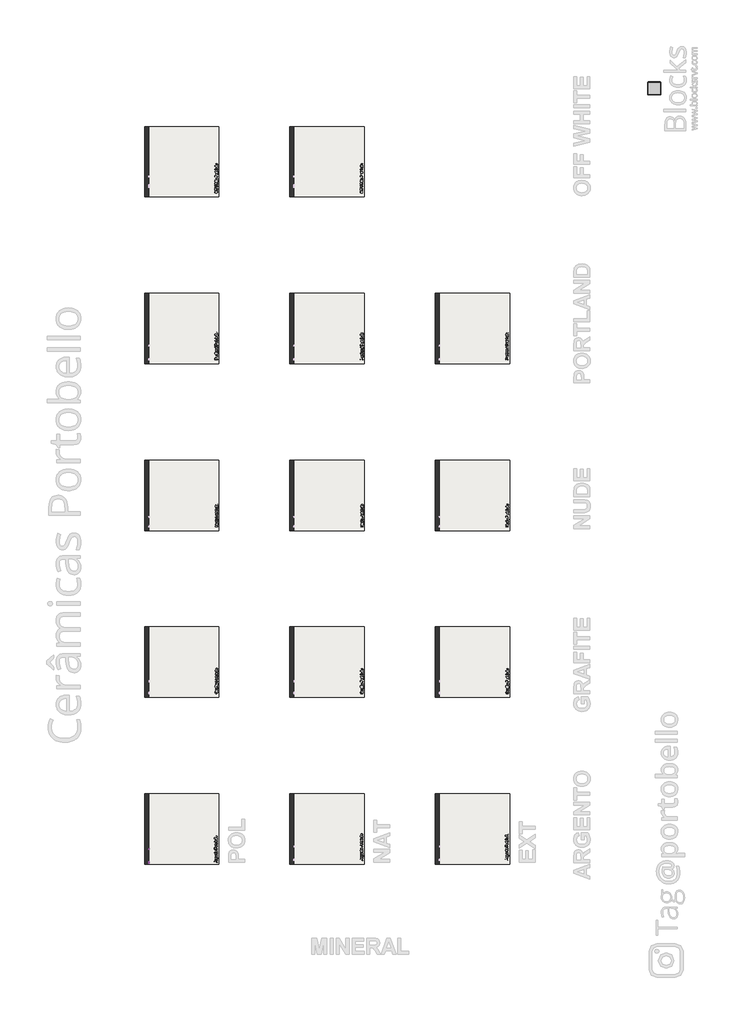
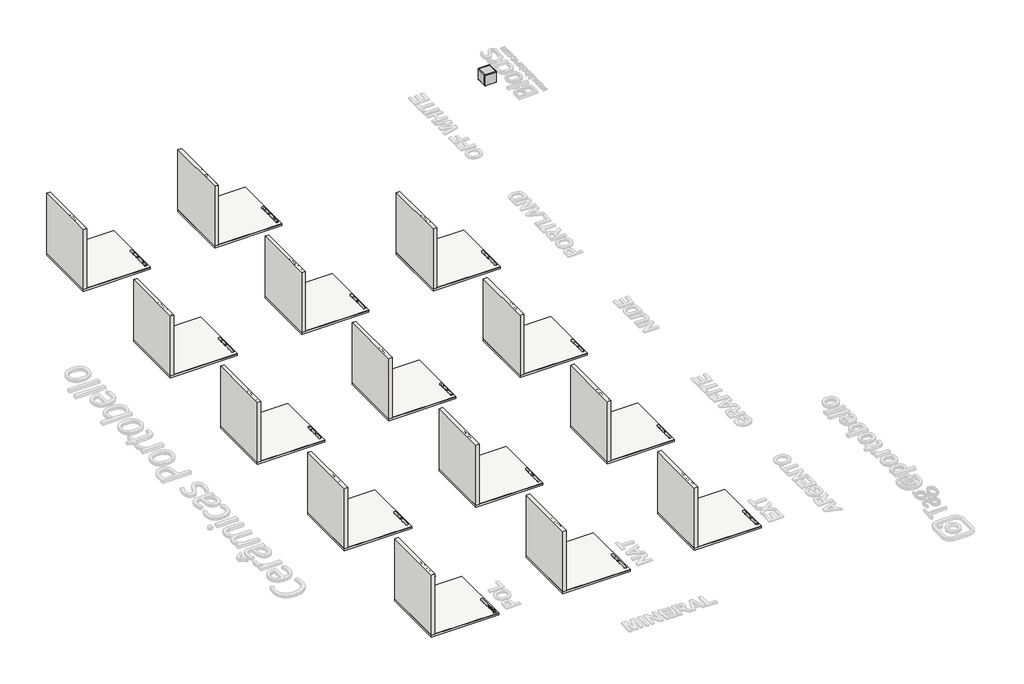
# One storey, part 1 of 14: 28 slabs, 14 walls, 3 proxies, 1 furniture element.
"""IFC4 building model written with IfcOpenShell, lengths in millimetres."""

from ifc_helpers import new_model, si_unit, frame, origin, origin_with_axes, place, context, project, spatial, polyline, outline, extrude, transform, mapped, element, save
from components import branco_22256ad2

model = new_model("IFC4")

# Units and contexts
model_context = context("Model", 3, world=origin())
ifc_project = project(units=[si_unit("LENGTHUNIT", "METRE", prefix="MILLI")], contexts=[model_context])

# Site, building, storey
site = spatial("IfcSite", under=ifc_project)
building = spatial("IfcBuilding", under=site)
storey = spatial("IfcBuildingStorey", under=building, Name="PORTOBELLO - SHOWROOM", Elevation=0.0)

# Proxies
placement = place(None, origin())
element("IfcBuildingElementProxy", 1, Name="10mm Arial", ObjectType="10mm Arial", at=placement, inside=storey, context=model_context, shape_type="SweptSolid", body=[
    extrude(outline(polyline([(186744.2516342, -9179.6965096), (186643.795324, -9139.5973722), (186643.795324, -9128.9042688), (186744.2516342, -9088.8051314), (186744.2516342, -9102.0734086), (186712.8590373, -9113.5758524), (186712.8590373, -9154.9503141), (186744.2516342, -9166.4282323), (186744.2516342, -9179.6965096)]), holes=[polyline([(186700.3019985, -9150.3395264), (186700.3019985, -9118.1621146), (186675.6048539, -9127.2120116), (186656.3523628, -9134.2508205), (186673.4466129, -9140.5048144), (186700.3019985, -9150.3395264)])]), frame((0.0, 0.0, 17.0), z_axis=(0.0, 0.0, 1.0), x_axis=(1.0, 0.0, 0.0)), (0.0, 0.0, 1.0), 20.0),
    extrude(outline(polyline([(186744.2516342, -9076.9593311), (186670.4790314, -9076.9593311), (186670.4790314, -9065.9719222), (186681.392864, -9065.9719222), (186671.3374228, -9058.1728239), (186668.9094016, -9050.3246747), (186672.7844253, -9037.718585), (186684.0416143, -9041.9124397), (186681.4664404, -9050.7416076), (186683.9435125, -9057.8417301), (186690.810643, -9062.3666786), (186705.4768719, -9064.4022923), (186744.2516342, -9064.4022923), (186744.2516342, -9076.9593311)])), frame((0.0, 0.0, 17.0), z_axis=(0.0, 0.0, 1.0), x_axis=(1.0, 0.0, 0.0)), (0.0, 0.0, 1.0), 20.0),
    extrude(outline(polyline([(186750.5301536, -9033.0096954), (186752.0997834, -9020.4526566), (186758.7216593, -9016.3814292), (186761.5175625, -9004.1922725), (186758.3537773, -8991.3409281), (186749.4755585, -8985.2095615), (186734.8338551, -8984.3511702), (186741.8971894, -8993.1926008), (186744.2516342, -9003.9715433), (186741.5109133, -9016.9179238), (186733.2887507, -9026.5717605), (186721.234484, -9032.5774341), (186706.9974508, -9034.5793253), (186687.5364933, -9030.9863444), (186673.7654439, -9020.5875467), (186668.9094016, -9004.5846799), (186671.6562538, -8993.3826732), (186679.8968105, -8984.3511702), (186670.4790314, -8984.3511702), (186670.4790314, -8971.7941314), (186734.1716675, -8971.7941314), (186758.5622438, -8975.2276967), (186769.905272, -8986.104741), (186774.0746013, -9004.4375271), (186772.606139, -9016.1208462), (186768.2007521, -9025.3209617), (186760.8461779, -9031.2224021), (186750.5301536, -9033.0096954)]), holes=[polyline([(186706.1390595, -9022.0222865), (186717.6568316, -9020.6825829), (186725.5754916, -9016.6634721), (186730.1648195, -9010.6210103), (186731.6945954, -9003.2112538), (186730.1740165, -8995.8566796), (186725.6122798, -8989.783561), (186717.7947874, -8985.7092679), (186706.5069415, -8984.3511702), (186695.6207001, -8985.7491218), (186687.7817479, -8989.9429765), (186683.0452673, -8996.1049999), (186681.4664404, -9003.4074575), (186683.0207418, -9010.5780908), (186687.6836461, -9016.5898957), (186695.4061023, -9020.6641888), (186706.1390595, -9022.0222865)])]), frame((0.0, 0.0, 17.0), z_axis=(0.0, 0.0, 1.0), x_axis=(1.0, 0.0, 0.0)), (0.0, 0.0, 1.0), 20.0),
    extrude(outline(polyline([(186722.2768164, -8901.3079411), (186723.8464462, -8888.996157), (186733.1232038, -8893.4322008), (186740.0577795, -8900.5108635), (186744.3803929, -8910.0727297), (186745.821264, -8921.9583838), (186743.3349949, -8936.6920577), (186735.8761874, -8948.0289545), (186723.9292196, -8955.2578357), (186707.9784695, -8957.6674628), (186691.4912247, -8955.2333103), (186679.1610465, -8947.9308527), (186671.4723128, -8936.74724), (186668.9094016, -8922.6696223), (186671.4661815, -8909.0303974), (186679.1365211, -8898.1318933), (186691.4421738, -8890.9857855), (186707.9048931, -8888.6037496), (186711.2894074, -8888.677326), (186711.2894074, -8945.110424), (186720.6887924, -8942.9368546), (186727.5988426, -8937.8876742), (186731.8478796, -8930.600545), (186733.2642253, -8921.7131291), (186730.6400004, -8909.401345), (186722.2768164, -8901.3079411)]), holes=[polyline([(186698.7323687, -8945.110424), (186698.7323687, -8901.1607883), (186687.3525523, -8906.1885089), (186682.9379683, -8913.5093606), (186681.4664404, -8922.7186733), (186686.1630672, -8938.1819798), (186691.6537059, -8943.0472192), (186698.7323687, -8945.110424)])]), frame((0.0, 0.0, 17.0), z_axis=(0.0, 0.0, 1.0), x_axis=(1.0, 0.0, 0.0)), (0.0, 0.0, 1.0), 20.0),
    extrude(outline(polyline([(186744.2516342, -8876.0467108), (186670.4790314, -8876.0467108), (186670.4790314, -8863.489672), (186680.7797273, -8863.489672), (186671.876983, -8853.887952), (186668.9094016, -8840.7790902), (186671.3006346, -8828.9210272), (186677.5791539, -8820.8276233), (186686.812992, -8817.0629642), (186698.9530979, -8816.4007767), (186744.2516342, -8816.4007767), (186744.2516342, -8828.9578154), (186700.645355, -8828.9578154), (186689.5353188, -8830.4048179), (186683.6614696, -8835.5183777), (186681.4664404, -8844.1390791), (186686.3960591, -8857.7629756), (186693.5391012, -8862.0579979), (186705.1089899, -8863.489672), (186744.2516342, -8863.489672), (186744.2516342, -8876.0467108)])), frame((0.0, 0.0, 17.0), z_axis=(0.0, 0.0, 1.0), x_axis=(1.0, 0.0, 0.0)), (0.0, 0.0, 1.0), 20.0),
    extrude(outline(polyline([(186733.7792601, -8772.451141), (186744.6195162, -8770.8815111), (186745.821264, -8780.2747647), (186743.7365994, -8790.7961898), (186738.2674204, -8796.0446396), (186724.0181245, -8797.5652185), (186683.0360702, -8797.5652185), (186683.0360702, -8806.9829976), (186670.4790314, -8806.9829976), (186670.4790314, -8797.5652185), (186652.5509155, -8797.5652185), (186645.1687502, -8785.0081797), (186670.4790314, -8785.0081797), (186670.4790314, -8772.451141), (186683.0360702, -8772.451141), (186683.0360702, -8785.0081797), (186723.6502425, -8785.0081797), (186730.1249656, -8784.3459921), (186732.4180967, -8782.2000138), (186733.2642253, -8777.92032), (186733.7792601, -8772.451141)])), frame((0.0, 0.0, 17.0), z_axis=(0.0, 0.0, 1.0), x_axis=(1.0, 0.0, 0.0)), (0.0, 0.0, 1.0), 20.0),
    extrude(outline(polyline([(186707.3653328, -8763.0333619), (186689.5782383, -8760.3171665), (186677.0763819, -8752.1685803), (186670.9511467, -8742.1008764), (186668.9094016, -8730.0466097), (186671.3956707, -8716.8549744), (186678.8544782, -8706.318221), (186690.6972128, -8699.4112365), (186706.3352632, -8697.1089084), (186728.6779631, -8701.1801358), (186741.320841, -8713.0381987), (186745.821264, -8730.0466097), (186743.3441919, -8743.3976604), (186735.9129756, -8753.9221511), (186723.8219207, -8760.7555592), (186707.3653328, -8763.0333619)]), holes=[polyline([(186707.3408073, -8750.4763231), (186718.7052953, -8749.0231892), (186726.8017649, -8744.6637876), (186731.6486102, -8738.1032253), (186733.2642253, -8730.0466097), (186731.6394131, -8722.0267822), (186726.7649767, -8715.4784826), (186718.5612082, -8711.119081), (186706.9483999, -8709.6659471), (186695.9150057, -8711.1282781), (186687.9289007, -8715.5152708), (186683.0820555, -8722.0727674), (186681.4664404, -8730.0466097), (186683.0759241, -8738.1032253), (186687.9043753, -8744.6637876), (186695.9824507, -8749.0231892), (186707.3408073, -8750.4763231)])]), frame((0.0, 0.0, 17.0), z_axis=(0.0, 0.0, 1.0), x_axis=(1.0, 0.0, 0.0)), (0.0, 0.0, 1.0), 20.0),
])
element("IfcBuildingElementProxy", 2, Name="10mm Arial", ObjectType="10mm Arial", at=placement, inside=storey, context=model_context, shape_type="SweptSolid", body=[
    extrude(outline(polyline([(-9209.6433663, 2558.2261649), (-9169.5442288, 2658.6824751), (-9158.8511255, 2658.6824751), (-9118.751988, 2558.2261649), (-9132.0202653, 2558.2261649), (-9143.522709, 2589.6187619), (-9184.8971708, 2589.6187619), (-9196.375089, 2558.2261649), (-9209.6433663, 2558.2261649)]), holes=[polyline([(-9180.2863831, 2602.1758006), (-9148.1089712, 2602.1758006), (-9157.1588683, 2626.8729452), (-9164.1976772, 2646.1254363), (-9170.4516711, 2629.0311863), (-9180.2863831, 2602.1758006)])]), frame((184113.9473279, 0.0, 0.0), z_axis=(1.0, 0.0, 0.0), x_axis=(0.0, 1.0, 0.0)), (0.0, 0.0, 1.0), 20.0),
    extrude(outline(polyline([(-9106.9061878, 2558.2261649), (-9106.9061878, 2631.9987677), (-9095.9187789, 2631.9987677), (-9095.9187789, 2621.0849352), (-9088.1196806, 2631.1403764), (-9080.2715313, 2633.5683975), (-9067.6654416, 2629.6933739), (-9071.8592964, 2618.4361848), (-9080.6884643, 2621.0113588), (-9087.7885868, 2618.5342867), (-9092.3135353, 2611.6671561), (-9094.349149, 2597.0009272), (-9094.349149, 2558.2261649), (-9106.9061878, 2558.2261649)])), frame((184113.9473279, 0.0, 0.0), z_axis=(1.0, 0.0, 0.0), x_axis=(0.0, 1.0, 0.0)), (0.0, 0.0, 1.0), 20.0),
    extrude(outline(polyline([(-9062.9565521, 2551.9476456), (-9050.3995133, 2550.3780157), (-9046.3282859, 2543.7561398), (-9034.1391291, 2540.9602366), (-9021.2877848, 2544.1240218), (-9015.1564182, 2553.0022406), (-9014.2980269, 2567.643944), (-9023.1394575, 2560.5806097), (-9033.9183999, 2558.2261649), (-9046.8647805, 2560.9668858), (-9056.5186172, 2569.1890484), (-9062.5242908, 2581.2433151), (-9064.5261819, 2595.4803483), (-9060.9332011, 2614.9413059), (-9050.5344034, 2628.7123552), (-9034.5315366, 2633.5683975), (-9023.3295298, 2630.8215453), (-9014.2980269, 2622.5809886), (-9014.2980269, 2631.9987677), (-9001.7409881, 2631.9987677), (-9001.7409881, 2568.3061316), (-9005.1745534, 2543.9155553), (-9016.0515977, 2532.5725271), (-9034.3843838, 2528.4031979), (-9046.0677028, 2529.8716602), (-9055.2678184, 2534.277047), (-9061.1692587, 2541.6316213), (-9062.9565521, 2551.9476456)]), holes=[polyline([(-9051.9691432, 2596.3387396), (-9050.6294396, 2584.8209675), (-9046.6103288, 2576.9023076), (-9040.567867, 2572.3129797), (-9033.1581105, 2570.7832037), (-9025.8035363, 2572.3037826), (-9019.7304177, 2576.8655194), (-9015.6561246, 2584.6830118), (-9014.2980269, 2595.9708576), (-9015.6959784, 2606.857099), (-9019.8898332, 2614.6960512), (-9026.0518566, 2619.4325319), (-9033.3543142, 2621.0113588), (-9040.5249474, 2619.4570573), (-9046.5367524, 2614.7941531), (-9050.6110455, 2607.0716968), (-9051.9691432, 2596.3387396)])]), frame((184113.9473279, 0.0, 0.0), z_axis=(1.0, 0.0, 0.0), x_axis=(0.0, 1.0, 0.0)), (0.0, 0.0, 1.0), 20.0),
    extrude(outline(polyline([(-8931.2547978, 2580.2009828), (-8918.9430137, 2578.6313529), (-8923.3790574, 2569.3545953), (-8930.4577202, 2562.4200197), (-8940.0195864, 2558.0974062), (-8951.9052405, 2556.6565351), (-8966.6389144, 2559.1428042), (-8977.9758112, 2566.6016117), (-8985.2046924, 2578.5485795), (-8987.6143195, 2594.4993297), (-8985.1801669, 2610.9865744), (-8977.8777093, 2623.3167526), (-8966.6940967, 2631.0054863), (-8952.616479, 2633.5683975), (-8938.977254, 2631.0116177), (-8928.0787499, 2623.3412781), (-8920.9326422, 2611.0356253), (-8918.5506063, 2594.5729061), (-8918.6241827, 2591.1883917), (-8975.0572807, 2591.1883917), (-8972.8837113, 2581.7890067), (-8967.8345309, 2574.8789566), (-8960.5474017, 2570.6299195), (-8951.6599858, 2569.2135739), (-8939.3482017, 2571.8377988), (-8931.2547978, 2580.2009828)]), holes=[polyline([(-8975.0572807, 2603.7454305), (-8931.107645, 2603.7454305), (-8936.1353656, 2615.1252469), (-8943.4562173, 2619.5398308), (-8952.6655299, 2621.0113588), (-8968.1288365, 2616.314732), (-8972.9940759, 2610.8240932), (-8975.0572807, 2603.7454305)])]), frame((184113.9473279, 0.0, 0.0), z_axis=(1.0, 0.0, 0.0), x_axis=(0.0, 1.0, 0.0)), (0.0, 0.0, 1.0), 20.0),
    extrude(outline(polyline([(-8905.9935675, 2558.2261649), (-8905.9935675, 2631.9987677), (-8893.4365287, 2631.9987677), (-8893.4365287, 2621.6980718), (-8883.8348086, 2630.6008161), (-8870.7259469, 2633.5683975), (-8858.8678839, 2631.1771646), (-8850.77448, 2624.8986452), (-8847.0098209, 2615.6648071), (-8846.3476333, 2603.5247013), (-8846.3476333, 2558.2261649), (-8858.9046721, 2558.2261649), (-8858.9046721, 2601.8324441), (-8860.3516746, 2612.9424804), (-8865.4652344, 2618.8163295), (-8874.0859358, 2621.0113588), (-8887.7098323, 2616.08174), (-8892.0048546, 2608.938698), (-8893.4365287, 2597.3688092), (-8893.4365287, 2558.2261649), (-8905.9935675, 2558.2261649)])), frame((184113.9473279, 0.0, 0.0), z_axis=(1.0, 0.0, 0.0), x_axis=(0.0, 1.0, 0.0)), (0.0, 0.0, 1.0), 20.0),
    extrude(outline(polyline([(-8802.3979976, 2568.6985391), (-8800.8283678, 2557.8582829), (-8810.2216214, 2556.6565351), (-8820.7430465, 2558.7411997), (-8825.9914963, 2564.2103787), (-8827.5120752, 2578.4596747), (-8827.5120752, 2619.4417289), (-8836.9298543, 2619.4417289), (-8836.9298543, 2631.9987677), (-8827.5120752, 2631.9987677), (-8827.5120752, 2649.9268836), (-8814.9550364, 2657.309049), (-8814.9550364, 2631.9987677), (-8802.3979976, 2631.9987677), (-8802.3979976, 2619.4417289), (-8814.9550364, 2619.4417289), (-8814.9550364, 2578.8275567), (-8814.2928488, 2572.3528336), (-8812.1468705, 2570.0597024), (-8807.8671766, 2569.2135739), (-8802.3979976, 2568.6985391)])), frame((184113.9473279, 0.0, 0.0), z_axis=(1.0, 0.0, 0.0), x_axis=(0.0, 1.0, 0.0)), (0.0, 0.0, 1.0), 20.0),
    extrude(outline(polyline([(-8792.9802186, 2595.1124663), (-8790.2640232, 2612.8995608), (-8782.115437, 2625.4014173), (-8772.047733, 2631.5266525), (-8759.9934663, 2633.5683975), (-8746.8018311, 2631.0821284), (-8736.2650776, 2623.6233209), (-8729.3580932, 2611.7805864), (-8727.055765, 2596.1425359), (-8731.1269924, 2573.7998361), (-8742.9850554, 2561.1569582), (-8759.9934663, 2556.6565351), (-8773.3445171, 2559.1336072), (-8783.8690078, 2566.5648235), (-8790.7024159, 2578.6558784), (-8792.9802186, 2595.1124663)]), holes=[polyline([(-8780.4231798, 2595.1369918), (-8778.9700459, 2583.7725038), (-8774.6106443, 2575.6760342), (-8768.050082, 2570.829189), (-8759.9934663, 2569.2135739), (-8751.9736388, 2570.838386), (-8745.4253393, 2575.7128224), (-8741.0659377, 2583.9165909), (-8739.6128038, 2595.5293992), (-8741.0751347, 2606.5627934), (-8745.4621275, 2614.5488984), (-8752.0196241, 2619.3957437), (-8759.9934663, 2621.0113588), (-8768.050082, 2619.4018751), (-8774.6106443, 2614.5734239), (-8778.9700459, 2606.4953484), (-8780.4231798, 2595.1369918)])]), frame((184113.9473279, 0.0, 0.0), z_axis=(1.0, 0.0, 0.0), x_axis=(0.0, 1.0, 0.0)), (0.0, 0.0, 1.0), 20.0),
])
element("IfcBuildingElementProxy", 3, Name="10mm Arial Narrow", ObjectType="10mm Arial Narrow", at=placement, inside=storey, context=model_context, shape_type="SweptSolid", body=[
    extrude(outline(polyline([(-8680.8096597, 2558.2261649), (-8680.8096597, 2658.9447687), (-8649.5127751, 2658.9447687), (-8633.2170735, 2657.066448), (-8621.7440874, 2647.5860048), (-8617.454409, 2630.566896), (-8619.2407174, 2618.4910704), (-8624.5996426, 2608.8646767), (-8634.3434314, 2602.5634182), (-8649.2843306, 2600.4629988), (-8671.0626981, 2600.4629988), (-8671.0626981, 2558.2261649), (-8680.8096597, 2558.2261649)]), holes=[polyline([(-8671.0626981, 2611.834454), (-8648.0913431, 2611.834454), (-8632.2271477, 2616.3652682), (-8627.2013706, 2630.033859), (-8629.6761851, 2640.1996354), (-8635.653814, 2645.9995852), (-8648.3197876, 2647.5733134), (-8671.0626981, 2647.5733134), (-8671.0626981, 2611.834454)])]), frame((184113.9473279, 0.0, 0.0), z_axis=(1.0, 0.0, 0.0), x_axis=(0.0, 1.0, 0.0)), (0.0, 0.0, 1.0), 20.0),
    extrude(outline(polyline([(-8609.3319409, 2594.7772711), (-8607.3774721, 2611.3680467), (-8601.5140655, 2623.3201315), (-8592.6554987, 2630.5446861), (-8581.7155496, 2632.9528709), (-8570.902514, 2630.5446861), (-8562.0185646, 2623.3201315), (-8556.0790098, 2611.558417), (-8554.0991582, 2595.5387525), (-8556.0441086, 2578.3768659), (-8561.8789597, 2566.2344108), (-8570.7280079, 2559.0098562), (-8581.7155496, 2556.6016713), (-8592.5761778, 2559.0162019), (-8601.4506087, 2566.2597935), (-8607.3616079, 2578.218224), (-8609.3319409, 2594.7772711)]), holes=[polyline([(-8599.5849793, 2594.8026538), (-8598.2809424, 2582.2509024), (-8594.3688318, 2573.3796444), (-8588.5276351, 2568.1063858), (-8581.4363398, 2566.348633), (-8574.7162666, 2568.12225), (-8569.0241933, 2573.4431012), (-8565.1406382, 2582.3302234), (-8563.8461199, 2594.8026538), (-8565.1501568, 2607.3163312), (-8569.0622673, 2616.1748979), (-8574.9034641, 2621.4481564), (-8581.9947594, 2623.2059093), (-8588.7624252, 2621.4386379), (-8594.44498, 2616.1368238), (-8598.2999795, 2607.2687386), (-8599.5849793, 2594.8026538)])]), frame((184113.9473279, 0.0, 0.0), z_axis=(1.0, 0.0, 0.0), x_axis=(0.0, 1.0, 0.0)), (0.0, 0.0, 1.0), 20.0),
    extrude(outline(polyline([(-8482.6214394, 2566.348633), (-8480.9969458, 2556.6016713), (-8488.3579325, 2556.6016713), (-8496.6326968, 2558.7211278), (-8500.947758, 2564.5210777), (-8502.1153628, 2579.1669029), (-8502.1153628, 2621.5814157), (-8510.2378308, 2621.5814157), (-8510.2378308, 2624.8304029), (-8511.8623244, 2619.9569221), (-8519.4263728, 2621.5814157), (-8525.5055325, 2619.2588975), (-8529.3763961, 2612.7736144), (-8531.3562477, 2597.3663078), (-8531.3562477, 2558.2261649), (-8541.1032094, 2558.2261649), (-8541.1032094, 2631.3283773), (-8531.3562477, 2631.3283773), (-8531.3562477, 2621.6321811), (-8525.1121004, 2630.7191922), (-8518.7156568, 2632.9528709), (-8510.2378308, 2631.3283773), (-8502.1153628, 2631.3283773), (-8502.1153628, 2647.5733134), (-8492.3684011, 2655.6957815), (-8492.3684011, 2631.3283773), (-8482.6214394, 2631.3283773), (-8482.6214394, 2621.5814157), (-8492.3684011, 2621.5814157), (-8492.3684011, 2576.9332242), (-8491.5053889, 2568.9376697), (-8486.8857352, 2566.348633), (-8482.6214394, 2566.348633)])), frame((184113.9473279, 0.0, 0.0), z_axis=(1.0, 0.0, 0.0), x_axis=(0.0, 1.0, 0.0)), (0.0, 0.0, 1.0), 20.0),
    extrude(outline(polyline([(-8476.123465, 2594.7772711), (-8474.1689961, 2611.3680467), (-8468.3055895, 2623.3201315), (-8459.4470228, 2630.5446861), (-8448.5070737, 2632.9528709), (-8437.6940381, 2630.5446861), (-8428.8100887, 2623.3201315), (-8422.8705339, 2611.558417), (-8420.8906823, 2595.5387525), (-8422.8356327, 2578.3768659), (-8428.6704837, 2566.2344108), (-8437.5195319, 2559.0098562), (-8448.5070737, 2556.6016713), (-8459.3677018, 2559.0162019), (-8468.2421327, 2566.2597935), (-8474.1531319, 2578.218224), (-8476.123465, 2594.7772711)]), holes=[polyline([(-8466.3765034, 2594.8026538), (-8465.0724665, 2582.2509024), (-8461.1603559, 2573.3796444), (-8455.3191592, 2568.1063858), (-8448.2278638, 2566.348633), (-8441.5077907, 2568.12225), (-8435.8157173, 2573.4431012), (-8431.9321623, 2582.3302234), (-8430.637644, 2594.8026538), (-8431.9416808, 2607.3163312), (-8435.8537914, 2616.1748979), (-8441.6949882, 2621.4481564), (-8448.7862835, 2623.2059093), (-8455.5539493, 2621.4386379), (-8461.2365041, 2616.1368238), (-8465.0915035, 2607.2687386), (-8466.3765034, 2594.8026538)])]), frame((184113.9473279, 0.0, 0.0), z_axis=(1.0, 0.0, 0.0), x_axis=(0.0, 1.0, 0.0)), (0.0, 0.0, 1.0), 20.0),
    extrude(outline(polyline([(-8398.1477718, 2558.2261649), (-8407.8947334, 2558.2261649), (-8407.8947334, 2658.9447687), (-8398.1477718, 2658.9447687), (-8398.1477718, 2623.5358846), (-8390.7487111, 2630.6176614), (-8381.5474777, 2632.9528709), (-8368.6657511, 2628.752032), (-8359.3883696, 2616.0226016), (-8355.910938, 2595.3356908), (-8357.843197, 2578.8813473), (-8363.639974, 2566.6786082), (-8372.0130963, 2559.1209056), (-8381.6743913, 2556.6016713), (-8391.0152295, 2559.2160907), (-8398.1477718, 2566.9832008), (-8398.1477718, 2558.2261649)]), holes=[polyline([(-8398.1477718, 2595.3356908), (-8396.0663893, 2578.0881376), (-8390.1776, 2569.3564844), (-8381.7251567, 2566.348633), (-8375.7824291, 2568.1381142), (-8370.5440718, 2573.5065579), (-8365.6578996, 2594.9295674), (-8370.3663928, 2616.3652682), (-8375.6110958, 2621.495749), (-8381.9282184, 2623.2059093), (-8387.9058472, 2621.4164281), (-8393.1981428, 2616.0479843), (-8398.1477718, 2595.3356908)])]), frame((184113.9473279, 0.0, 0.0), z_axis=(1.0, 0.0, 0.0), x_axis=(0.0, 1.0, 0.0)), (0.0, 0.0, 1.0), 20.0),
    extrude(outline(polyline([(-8303.9271425, 2580.9690755), (-8294.1801808, 2579.3445819), (-8297.8797112, 2569.4580153), (-8303.6986981, 2562.3381644), (-8311.4023513, 2558.0357946), (-8320.7558809, 2556.6016713), (-8332.3494349, 2559.0162019), (-8341.4935572, 2566.2597935), (-8347.4331119, 2578.0659277), (-8349.4129635, 2594.168086), (-8347.4235934, 2610.8350097), (-8341.4554831, 2623.0155389), (-8332.4414473, 2630.4685379), (-8321.3143006, 2632.9528709), (-8310.6313514, 2630.5542046), (-8301.8838341, 2623.3582056), (-8296.048983, 2611.618701), (-8294.1040327, 2595.5895179), (-8294.1801808, 2592.3405307), (-8339.6660019, 2592.3405307), (-8333.6629903, 2572.8973728), (-8327.7329541, 2567.9858179), (-8320.6289674, 2566.348633), (-8310.4504996, 2570.0037436), (-8303.9271425, 2580.9690755)]), holes=[polyline([(-8339.0060513, 2602.0874924), (-8303.9271425, 2602.0874924), (-8308.1914382, 2616.3525769), (-8314.0167707, 2621.4925762), (-8321.2381525, 2623.2059093), (-8333.4472373, 2617.4947989), (-8339.0060513, 2602.0874924)])]), frame((184113.9473279, 0.0, 0.0), z_axis=(1.0, 0.0, 0.0), x_axis=(0.0, 1.0, 0.0)), (0.0, 0.0, 1.0), 20.0),
    extrude(outline(polyline([(184133.9473279, -8271.4372703), (184133.9473279, -8281.1842319), (184113.9473279, -8281.1842319), (184113.9473279, -8271.4372703), (184133.9473279, -8271.4372703)])), frame((0.0, 0.0, 2558.2261649), z_axis=(0.0, 0.0, 1.0), x_axis=(1.0, 0.0, 0.0)), (0.0, 0.0, 1.0), 100.7186038),
    extrude(outline(polyline([(184133.9473279, -8245.4453725), (184133.9473279, -8255.1923342), (184113.9473279, -8255.1923342), (184113.9473279, -8245.4453725), (184133.9473279, -8245.4453725)])), frame((0.0, 0.0, 2558.2261649), z_axis=(0.0, 0.0, 1.0), x_axis=(1.0, 0.0, 0.0)), (0.0, 0.0, 1.0), 100.7186038),
    extrude(outline(polyline([(-8234.0739173, 2594.7772711), (-8232.1194484, 2611.3680467), (-8226.2560418, 2623.3201315), (-8217.3974751, 2630.5446861), (-8206.4575259, 2632.9528709), (-8195.6444903, 2630.5446861), (-8186.7605409, 2623.3201315), (-8180.8209862, 2611.558417), (-8178.8411346, 2595.5387525), (-8180.7860849, 2578.3768659), (-8186.620936, 2566.2344108), (-8195.4699842, 2559.0098562), (-8206.4575259, 2556.6016713), (-8217.3181541, 2559.0162019), (-8226.192585, 2566.2597935), (-8232.1035842, 2578.218224), (-8234.0739173, 2594.7772711)]), holes=[polyline([(-8224.3269556, 2594.8026538), (-8223.0229188, 2582.2509024), (-8219.1108082, 2573.3796444), (-8213.2696114, 2568.1063858), (-8206.1783161, 2566.348633), (-8199.4582429, 2568.12225), (-8193.7661696, 2573.4431012), (-8189.8826146, 2582.3302234), (-8188.5880962, 2594.8026538), (-8189.8921331, 2607.3163312), (-8193.8042437, 2616.1748979), (-8199.6454404, 2621.4481564), (-8206.7367358, 2623.2059093), (-8213.5044015, 2621.4386379), (-8219.1869563, 2616.1368238), (-8223.0419558, 2607.2687386), (-8224.3269556, 2594.8026538)])]), frame((184113.9473279, 0.0, 0.0), z_axis=(1.0, 0.0, 0.0), x_axis=(0.0, 1.0, 0.0)), (0.0, 0.0, 1.0), 20.0),
])

# Furniture
branco_shape = branco_22256ad2(model_context)
element("IfcFurniture", 4, ObjectType="Blks_Mob_Blocks Revit_Cubo : Branco", at=placement, inside=storey, context=model_context, shape_type="MappedRepresentation", body=[
    mapped(branco_shape, transform((203521.0992298, 20541.6436728, 0.0), x_axis=(1.0, 0.0, 0.0), y_axis=(0.0, 1.0, 0.0), z_axis=(0.0, 0.0, 1.0))),
])

# Slabs
element("IfcSlab", 5, ObjectType="PORTOBELLO - LAJE", at=placement, inside=storey, context=model_context, shape_type="SweptSolid", body=[
    extrude(outline(polyline([(197971.7113716, -6526.1599126), (197971.7113716, -9226.1599126), (195121.7113716, -9226.1599126), (195121.7113716, -6526.1599126), (197971.7113716, -6526.1599126)])), frame((0.0, 0.0, -80.0), z_axis=(0.0, 0.0, 1.0), x_axis=(1.0, 0.0, 0.0)), (0.0, 0.0, 1.0), 80.0),
])
element("IfcSlab", 6, ObjectType="PORTOBELLO - MINERAL - ARGENTO - 90X90 - EXT - RET", at=placement, inside=storey, context=model_context, shape_type="SweptSolid", body=[
    extrude(outline(polyline([(197971.7113716, -9226.1599126), (195271.7113716, -9226.1599126), (195271.7113716, -6526.1599126), (197971.7113716, -6526.1599126), (197971.7113716, -9226.1599126)])), origin_with_axes(), (0.0, 0.0, 1.0), 17.0),
])
element("IfcSlab", 7, ObjectType="PORTOBELLO - LAJE", at=placement, inside=storey, context=model_context, shape_type="SweptSolid", body=[
    extrude(outline(polyline([(192392.8293498, -6526.1599126), (192392.8293498, -9226.1599126), (189542.8293498, -9226.1599126), (189542.8293498, -6526.1599126), (192392.8293498, -6526.1599126)])), frame((0.0, 0.0, -80.0), z_axis=(0.0, 0.0, 1.0), x_axis=(1.0, 0.0, 0.0)), (0.0, 0.0, 1.0), 80.0),
])
element("IfcSlab", 8, ObjectType="PORTOBELLO - MINERAL - ARGENTO - 90X90 - NAT - RET", at=placement, inside=storey, context=model_context, shape_type="SweptSolid", body=[
    extrude(outline(polyline([(192392.8293498, -9226.1599126), (189692.8293498, -9226.1599126), (189692.8293498, -6526.1599126), (192392.8293498, -6526.1599126), (192392.8293498, -9226.1599126)])), origin_with_axes(), (0.0, 0.0, 1.0), 17.0),
])
element("IfcSlab", 9, ObjectType="PORTOBELLO - LAJE", at=placement, inside=storey, context=model_context, shape_type="SweptSolid", body=[
    extrude(outline(polyline([(186813.9473279, -6526.1599126), (186813.9473279, -9226.1599126), (183963.9473279, -9226.1599126), (183963.9473279, -6526.1599126), (186813.9473279, -6526.1599126)])), frame((0.0, 0.0, -80.0), z_axis=(0.0, 0.0, 1.0), x_axis=(1.0, 0.0, 0.0)), (0.0, 0.0, 1.0), 80.0),
])
element("IfcSlab", 10, ObjectType="PORTOBELLO - MINERAL - ARGENTO - 90X90 - POL - RET", at=placement, inside=storey, context=model_context, shape_type="SweptSolid", body=[
    extrude(outline(polyline([(186813.9473279, -9226.1599126), (184113.9473279, -9226.1599126), (184113.9473279, -6526.1599126), (186813.9473279, -6526.1599126), (186813.9473279, -9226.1599126)])), origin_with_axes(), (0.0, 0.0, 1.0), 17.0),
])
element("IfcSlab", 11, ObjectType="PORTOBELLO - LAJE", at=placement, inside=storey, context=model_context, shape_type="SweptSolid", body=[
    extrude(outline(polyline([(197971.7113716, -126.1599126), (197971.7113716, -2826.1599126), (195121.7113716, -2826.1599126), (195121.7113716, -126.1599126), (197971.7113716, -126.1599126)])), frame((0.0, 0.0, -80.0), z_axis=(0.0, 0.0, 1.0), x_axis=(1.0, 0.0, 0.0)), (0.0, 0.0, 1.0), 80.0),
])
element("IfcSlab", 12, ObjectType="PORTOBELLO - MINERAL - GRAFITE - 90X90 - EXT - RET", at=placement, inside=storey, context=model_context, shape_type="SweptSolid", body=[
    extrude(outline(polyline([(197971.7113716, -2826.1599126), (195271.7113716, -2826.1599126), (195271.7113716, -126.1599126), (197971.7113716, -126.1599126), (197971.7113716, -2826.1599126)])), origin_with_axes(), (0.0, 0.0, 1.0), 17.0),
])
element("IfcSlab", 13, ObjectType="PORTOBELLO - LAJE", at=placement, inside=storey, context=model_context, shape_type="SweptSolid", body=[
    extrude(outline(polyline([(192392.8293498, -126.1599126), (192392.8293498, -2826.1599126), (189542.8293498, -2826.1599126), (189542.8293498, -126.1599126), (192392.8293498, -126.1599126)])), frame((0.0, 0.0, -80.0), z_axis=(0.0, 0.0, 1.0), x_axis=(1.0, 0.0, 0.0)), (0.0, 0.0, 1.0), 80.0),
])
element("IfcSlab", 14, ObjectType="PORTOBELLO - MINERAL - GRAFITE - 90X90 - NAT - RET", at=placement, inside=storey, context=model_context, shape_type="SweptSolid", body=[
    extrude(outline(polyline([(192392.8293498, -2826.1599126), (189692.8293498, -2826.1599126), (189692.8293498, -126.1599126), (192392.8293498, -126.1599126), (192392.8293498, -2826.1599126)])), origin_with_axes(), (0.0, 0.0, 1.0), 17.0),
])
element("IfcSlab", 15, ObjectType="PORTOBELLO - LAJE", at=placement, inside=storey, context=model_context, shape_type="SweptSolid", body=[
    extrude(outline(polyline([(186813.9473279, -126.1599126), (186813.9473279, -2826.1599126), (183963.9473279, -2826.1599126), (183963.9473279, -126.1599126), (186813.9473279, -126.1599126)])), frame((0.0, 0.0, -80.0), z_axis=(0.0, 0.0, 1.0), x_axis=(1.0, 0.0, 0.0)), (0.0, 0.0, 1.0), 80.0),
])
element("IfcSlab", 16, ObjectType="PORTOBELLO - MINERAL - GRAFITE - 90X90 - POL - RET", at=placement, inside=storey, context=model_context, shape_type="SweptSolid", body=[
    extrude(outline(polyline([(186813.9473279, -2826.1599126), (184113.9473279, -2826.1599126), (184113.9473279, -126.1599126), (186813.9473279, -126.1599126), (186813.9473279, -2826.1599126)])), origin_with_axes(), (0.0, 0.0, 1.0), 17.0),
])
element("IfcSlab", 17, ObjectType="PORTOBELLO - LAJE", at=placement, inside=storey, context=model_context, shape_type="SweptSolid", body=[
    extrude(outline(polyline([(197971.7113716, 6273.8400874), (197971.7113716, 3573.8400874), (195121.7113716, 3573.8400874), (195121.7113716, 6273.8400874), (197971.7113716, 6273.8400874)])), frame((0.0, 0.0, -80.0), z_axis=(0.0, 0.0, 1.0), x_axis=(1.0, 0.0, 0.0)), (0.0, 0.0, 1.0), 80.0),
])
element("IfcSlab", 18, ObjectType="PORTOBELLO - MINERAL - NUDE - 90X90 - EXT", at=placement, inside=storey, context=model_context, shape_type="SweptSolid", body=[
    extrude(outline(polyline([(197971.7113716, 3573.8400874), (195271.7113716, 3573.8400874), (195271.7113716, 6273.8400874), (197971.7113716, 6273.8400874), (197971.7113716, 3573.8400874)])), origin_with_axes(), (0.0, 0.0, 1.0), 17.0),
])
element("IfcSlab", 19, ObjectType="PORTOBELLO - LAJE", at=placement, inside=storey, context=model_context, shape_type="SweptSolid", body=[
    extrude(outline(polyline([(192392.8293498, 6273.8400874), (192392.8293498, 3573.8400874), (189542.8293498, 3573.8400874), (189542.8293498, 6273.8400874), (192392.8293498, 6273.8400874)])), frame((0.0, 0.0, -80.0), z_axis=(0.0, 0.0, 1.0), x_axis=(1.0, 0.0, 0.0)), (0.0, 0.0, 1.0), 80.0),
])
element("IfcSlab", 20, ObjectType="PORTOBELLO - MINERAL - NUDE - 90X90 - NAT", at=placement, inside=storey, context=model_context, shape_type="SweptSolid", body=[
    extrude(outline(polyline([(192392.8293498, 3573.8400874), (189692.8293498, 3573.8400874), (189692.8293498, 6273.8400874), (192392.8293498, 6273.8400874), (192392.8293498, 3573.8400874)])), origin_with_axes(), (0.0, 0.0, 1.0), 17.0),
])
element("IfcSlab", 21, ObjectType="PORTOBELLO - LAJE", at=placement, inside=storey, context=model_context, shape_type="SweptSolid", body=[
    extrude(outline(polyline([(186813.9473279, 6273.8400874), (186813.9473279, 3573.8400874), (183963.9473279, 3573.8400874), (183963.9473279, 6273.8400874), (186813.9473279, 6273.8400874)])), frame((0.0, 0.0, -80.0), z_axis=(0.0, 0.0, 1.0), x_axis=(1.0, 0.0, 0.0)), (0.0, 0.0, 1.0), 80.0),
])
element("IfcSlab", 22, ObjectType="PORTOBELLO - MINERAL - NUDE - 90X90 - POL", at=placement, inside=storey, context=model_context, shape_type="SweptSolid", body=[
    extrude(outline(polyline([(186813.9473279, 3573.8400874), (184113.9473279, 3573.8400874), (184113.9473279, 6273.8400874), (186813.9473279, 6273.8400874), (186813.9473279, 3573.8400874)])), origin_with_axes(), (0.0, 0.0, 1.0), 17.0),
])
element("IfcSlab", 23, ObjectType="PORTOBELLO - LAJE", at=placement, inside=storey, context=model_context, shape_type="SweptSolid", body=[
    extrude(outline(polyline([(197971.7113716, 12673.8400874), (197971.7113716, 9973.8400874), (195121.7113716, 9973.8400874), (195121.7113716, 12673.8400874), (197971.7113716, 12673.8400874)])), frame((0.0, 0.0, -80.0), z_axis=(0.0, 0.0, 1.0), x_axis=(1.0, 0.0, 0.0)), (0.0, 0.0, 1.0), 80.0),
])
element("IfcSlab", 24, ObjectType="PORTOBELLO - MINERAL - PORTLAND - 90X90 - EXT", at=placement, inside=storey, context=model_context, shape_type="SweptSolid", body=[
    extrude(outline(polyline([(197971.7113716, 9973.8400874), (195271.7113716, 9973.8400874), (195271.7113716, 12673.8400874), (197971.7113716, 12673.8400874), (197971.7113716, 9973.8400874)])), origin_with_axes(), (0.0, 0.0, 1.0), 17.0),
])
element("IfcSlab", 25, ObjectType="PORTOBELLO - LAJE", at=placement, inside=storey, context=model_context, shape_type="SweptSolid", body=[
    extrude(outline(polyline([(192392.8293498, 12673.8400874), (192392.8293498, 9973.8400874), (189542.8293498, 9973.8400874), (189542.8293498, 12673.8400874), (192392.8293498, 12673.8400874)])), frame((0.0, 0.0, -80.0), z_axis=(0.0, 0.0, 1.0), x_axis=(1.0, 0.0, 0.0)), (0.0, 0.0, 1.0), 80.0),
])
element("IfcSlab", 26, ObjectType="PORTOBELLO - MINERAL - PORTLAND - 90X90 - NAT", at=placement, inside=storey, context=model_context, shape_type="SweptSolid", body=[
    extrude(outline(polyline([(192392.8293498, 9973.8400874), (189692.8293498, 9973.8400874), (189692.8293498, 12673.8400874), (192392.8293498, 12673.8400874), (192392.8293498, 9973.8400874)])), origin_with_axes(), (0.0, 0.0, 1.0), 17.0),
])
element("IfcSlab", 27, ObjectType="PORTOBELLO - LAJE", at=placement, inside=storey, context=model_context, shape_type="SweptSolid", body=[
    extrude(outline(polyline([(186813.9473279, 12673.8400874), (186813.9473279, 9973.8400874), (183963.9473279, 9973.8400874), (183963.9473279, 12673.8400874), (186813.9473279, 12673.8400874)])), frame((0.0, 0.0, -80.0), z_axis=(0.0, 0.0, 1.0), x_axis=(1.0, 0.0, 0.0)), (0.0, 0.0, 1.0), 80.0),
])
element("IfcSlab", 28, ObjectType="PORTOBELLO - MINERAL - PORTLAND - 90X90 - POL", at=placement, inside=storey, context=model_context, shape_type="SweptSolid", body=[
    extrude(outline(polyline([(186813.9473279, 9973.8400874), (184113.9473279, 9973.8400874), (184113.9473279, 12673.8400874), (186813.9473279, 12673.8400874), (186813.9473279, 9973.8400874)])), origin_with_axes(), (0.0, 0.0, 1.0), 17.0),
])
element("IfcSlab", 29, ObjectType="PORTOBELLO - LAJE", at=placement, inside=storey, context=model_context, shape_type="SweptSolid", body=[
    extrude(outline(polyline([(192392.8293498, 19073.8400874), (192392.8293498, 16373.8400874), (189542.8293498, 16373.8400874), (189542.8293498, 19073.8400874), (192392.8293498, 19073.8400874)])), frame((0.0, 0.0, -80.0), z_axis=(0.0, 0.0, 1.0), x_axis=(1.0, 0.0, 0.0)), (0.0, 0.0, 1.0), 80.0),
])
element("IfcSlab", 30, ObjectType="PORTOBELLO - MINERAL - OFF WHITE - 90X90 - NAT", at=placement, inside=storey, context=model_context, shape_type="SweptSolid", body=[
    extrude(outline(polyline([(192392.8293498, 16373.8400874), (189692.8293498, 16373.8400874), (189692.8293498, 19073.8400874), (192392.8293498, 19073.8400874), (192392.8293498, 16373.8400874)])), origin_with_axes(), (0.0, 0.0, 1.0), 17.0),
])
element("IfcSlab", 31, ObjectType="PORTOBELLO - LAJE", at=placement, inside=storey, context=model_context, shape_type="SweptSolid", body=[
    extrude(outline(polyline([(186813.9473279, 19073.8400874), (186813.9473279, 16373.8400874), (183963.9473279, 16373.8400874), (183963.9473279, 19073.8400874), (186813.9473279, 19073.8400874)])), frame((0.0, 0.0, -80.0), z_axis=(0.0, 0.0, 1.0), x_axis=(1.0, 0.0, 0.0)), (0.0, 0.0, 1.0), 80.0),
])
element("IfcSlab", 32, ObjectType="PORTOBELLO - MINERAL - OFF WHITE - 90X90 - POL", at=placement, inside=storey, context=model_context, shape_type="SweptSolid", body=[
    extrude(outline(polyline([(186813.9473279, 16373.8400874), (184113.9473279, 16373.8400874), (184113.9473279, 19073.8400874), (186813.9473279, 19073.8400874), (186813.9473279, 16373.8400874)])), origin_with_axes(), (0.0, 0.0, 1.0), 17.0),
])

# Walls
element("IfcWall", 33, ObjectType="PORTOBELLO - MINERAL - ARGENTO - 90X90 - EXT - RET", at=placement, inside=storey, context=model_context, shape_type="SweptSolid", body=[
    extrude(outline(polyline([(195271.7113716, -6526.1599126), (195271.7113716, -9226.1599126), (195121.7113716, -9226.1599126), (195121.7113716, -6526.1599126), (195271.7113716, -6526.1599126)])), origin_with_axes(), (0.0, 0.0, 1.0), 2700.0),
])
element("IfcWall", 34, ObjectType="PORTOBELLO - MINERAL - ARGENTO - 90X90 - NAT - RET", at=placement, inside=storey, context=model_context, shape_type="SweptSolid", body=[
    extrude(outline(polyline([(189692.8293498, -6526.1599126), (189692.8293498, -9226.1599126), (189542.8293498, -9226.1599126), (189542.8293498, -6526.1599126), (189692.8293498, -6526.1599126)])), origin_with_axes(), (0.0, 0.0, 1.0), 2700.0),
])
element("IfcWall", 35, ObjectType="PORTOBELLO - MINERAL - ARGENTO - 90X90 - POL - RET", at=placement, inside=storey, context=model_context, shape_type="SweptSolid", body=[
    extrude(outline(polyline([(184113.9473279, -6526.1599126), (184113.9473279, -9226.1599126), (183963.9473279, -9226.1599126), (183963.9473279, -6526.1599126), (184113.9473279, -6526.1599126)])), origin_with_axes(), (0.0, 0.0, 1.0), 2700.0),
])
element("IfcWall", 36, ObjectType="PORTOBELLO - MINERAL - GRAFITE - 90X90 - EXT - RET", at=placement, inside=storey, context=model_context, shape_type="SweptSolid", body=[
    extrude(outline(polyline([(195271.7113716, -126.1599126), (195271.7113716, -2826.1599126), (195121.7113716, -2826.1599126), (195121.7113716, -126.1599126), (195271.7113716, -126.1599126)])), origin_with_axes(), (0.0, 0.0, 1.0), 2700.0),
])
element("IfcWall", 37, ObjectType="PORTOBELLO - MINERAL - GRAFITE - 90X90 - NAT - RET", at=placement, inside=storey, context=model_context, shape_type="SweptSolid", body=[
    extrude(outline(polyline([(189692.8293498, -126.1599126), (189692.8293498, -2826.1599126), (189542.8293498, -2826.1599126), (189542.8293498, -126.1599126), (189692.8293498, -126.1599126)])), origin_with_axes(), (0.0, 0.0, 1.0), 2700.0),
])
element("IfcWall", 38, ObjectType="PORTOBELLO - MINERAL - GRAFITE - 90X90 - POL - RET", at=placement, inside=storey, context=model_context, shape_type="SweptSolid", body=[
    extrude(outline(polyline([(184113.9473279, -126.1599126), (184113.9473279, -2826.1599126), (183963.9473279, -2826.1599126), (183963.9473279, -126.1599126), (184113.9473279, -126.1599126)])), origin_with_axes(), (0.0, 0.0, 1.0), 2700.0),
])
element("IfcWall", 39, ObjectType="PORTOBELLO - MINERAL - NUDE - 90X90 - EXT", at=placement, inside=storey, context=model_context, shape_type="SweptSolid", body=[
    extrude(outline(polyline([(195271.7113716, 6273.8400874), (195271.7113716, 3573.8400874), (195121.7113716, 3573.8400874), (195121.7113716, 6273.8400874), (195271.7113716, 6273.8400874)])), origin_with_axes(), (0.0, 0.0, 1.0), 2700.0),
])
element("IfcWall", 40, ObjectType="PORTOBELLO - MINERAL - NUDE - 90X90 - NAT", at=placement, inside=storey, context=model_context, shape_type="SweptSolid", body=[
    extrude(outline(polyline([(189692.8293498, 6273.8400874), (189692.8293498, 3573.8400874), (189542.8293498, 3573.8400874), (189542.8293498, 6273.8400874), (189692.8293498, 6273.8400874)])), origin_with_axes(), (0.0, 0.0, 1.0), 2700.0),
])
element("IfcWall", 41, ObjectType="PORTOBELLO - MINERAL - NUDE - 90X90 - POL", at=placement, inside=storey, context=model_context, shape_type="SweptSolid", body=[
    extrude(outline(polyline([(184113.9473279, 6273.8400874), (184113.9473279, 3573.8400874), (183963.9473279, 3573.8400874), (183963.9473279, 6273.8400874), (184113.9473279, 6273.8400874)])), origin_with_axes(), (0.0, 0.0, 1.0), 2700.0),
])
element("IfcWall", 42, ObjectType="PORTOBELLO - MINERAL - PORTLAND - 90X90 - EXT", at=placement, inside=storey, context=model_context, shape_type="SweptSolid", body=[
    extrude(outline(polyline([(195271.7113716, 12673.8400874), (195271.7113716, 9973.8400874), (195121.7113716, 9973.8400874), (195121.7113716, 12673.8400874), (195271.7113716, 12673.8400874)])), origin_with_axes(), (0.0, 0.0, 1.0), 2700.0),
])
element("IfcWall", 43, ObjectType="PORTOBELLO - MINERAL - PORTLAND - 90X90 - NAT", at=placement, inside=storey, context=model_context, shape_type="SweptSolid", body=[
    extrude(outline(polyline([(189692.8293498, 12673.8400874), (189692.8293498, 9973.8400874), (189542.8293498, 9973.8400874), (189542.8293498, 12673.8400874), (189692.8293498, 12673.8400874)])), origin_with_axes(), (0.0, 0.0, 1.0), 2700.0),
])
element("IfcWall", 44, ObjectType="PORTOBELLO - MINERAL - PORTLAND - 90X90 - POL", at=placement, inside=storey, context=model_context, shape_type="SweptSolid", body=[
    extrude(outline(polyline([(184113.9473279, 12673.8400874), (184113.9473279, 9973.8400874), (183963.9473279, 9973.8400874), (183963.9473279, 12673.8400874), (184113.9473279, 12673.8400874)])), origin_with_axes(), (0.0, 0.0, 1.0), 2700.0),
])
element("IfcWall", 45, ObjectType="PORTOBELLO - MINERAL - OFF WHITE - 90X90 - NAT", at=placement, inside=storey, context=model_context, shape_type="SweptSolid", body=[
    extrude(outline(polyline([(189692.8293498, 19073.8400874), (189692.8293498, 16373.8400874), (189542.8293498, 16373.8400874), (189542.8293498, 19073.8400874), (189692.8293498, 19073.8400874)])), origin_with_axes(), (0.0, 0.0, 1.0), 2700.0),
])
element("IfcWall", 46, ObjectType="PORTOBELLO - MINERAL - OFF WHITE - 90X90 - POL", at=placement, inside=storey, context=model_context, shape_type="SweptSolid", body=[
    extrude(outline(polyline([(184113.9473279, 19073.8400874), (184113.9473279, 16373.8400874), (183963.9473279, 16373.8400874), (183963.9473279, 19073.8400874), (184113.9473279, 19073.8400874)])), origin_with_axes(), (0.0, 0.0, 1.0), 2700.0),
])

save(model, "model.ifc")
